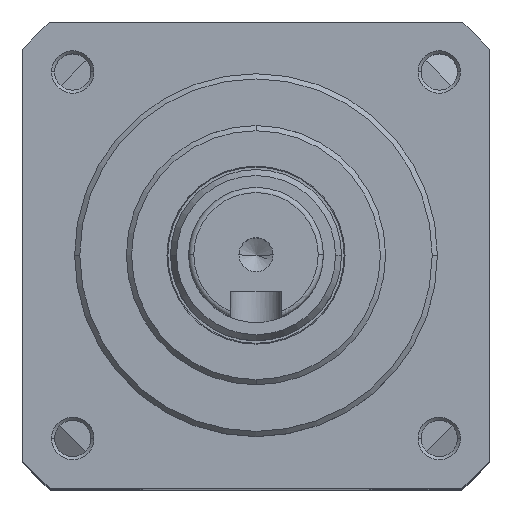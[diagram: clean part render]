
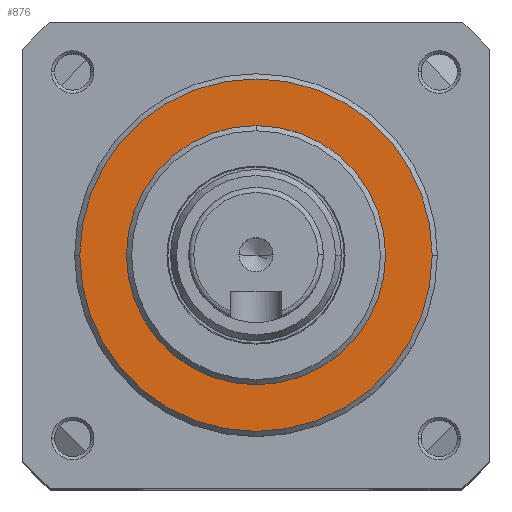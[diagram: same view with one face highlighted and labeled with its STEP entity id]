
A CAD part, top view. The second image highlights one B-rep face of the part: STEP entity #876.
In plain terms, the highlighted planar face has unit normal (0, 0, 1).
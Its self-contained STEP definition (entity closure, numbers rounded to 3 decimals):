
#373 = CARTESIAN_POINT ( 'NONE',  ( 0., 0., 37.75 ) ) ;
#711 = CARTESIAN_POINT ( 'NONE',  ( 12.5, 0., 37.75 ) ) ;
#723 = CARTESIAN_POINT ( 'NONE',  ( 0., 0., 37.75 ) ) ;
#876 = ADVANCED_FACE ( 'NONE', ( #1572, #14190 ), #1668, .T. ) ;
#1480 = DIRECTION ( 'NONE',  ( 1., 0., 0. ) ) ;
#1572 = FACE_OUTER_BOUND ( 'NONE', #15789, .T. ) ;
#1668 = PLANE ( 'NONE',  #3746 ) ;
#1928 = DIRECTION ( 'NONE',  ( 1., 0., 0. ) ) ;
#2104 = EDGE_CURVE ( 'NONE', #10865, #12562, #7927, .T. ) ;
#2136 = ORIENTED_EDGE ( 'NONE', *, *, #2104, .T. ) ;
#3011 = EDGE_CURVE ( 'NONE', #12493, #3862, #12398, .T. ) ;
#3746 = AXIS2_PLACEMENT_3D ( 'NONE', #10341, #4294, #6670 ) ;
#3862 = VERTEX_POINT ( 'NONE', #5953 ) ;
#4046 = AXIS2_PLACEMENT_3D ( 'NONE', #6275, #14783, #12495 ) ;
#4294 = DIRECTION ( 'NONE',  ( 0., 0., 1. ) ) ;
#4664 = ORIENTED_EDGE ( 'NONE', *, *, #12050, .T. ) ;
#5569 = CIRCLE ( 'NONE', #7670, 17. ) ;
#5953 = CARTESIAN_POINT ( 'NONE',  ( -12.5, 0., 37.75 ) ) ;
#6275 = CARTESIAN_POINT ( 'NONE',  ( 0., 0., 37.75 ) ) ;
#6670 = DIRECTION ( 'NONE',  ( 1., 0., 0. ) ) ;
#7601 = DIRECTION ( 'NONE',  ( 0., 0., 1. ) ) ;
#7670 = AXIS2_PLACEMENT_3D ( 'NONE', #723, #9300, #1928 ) ;
#7828 = AXIS2_PLACEMENT_3D ( 'NONE', #373, #7601, #1480 ) ;
#7927 = CIRCLE ( 'NONE', #10237, 17. ) ;
#8440 = CARTESIAN_POINT ( 'NONE',  ( -17., 0., 37.75 ) ) ;
#8793 = EDGE_LOOP ( 'NONE', ( #11922, #14613 ) ) ;
#9300 = DIRECTION ( 'NONE',  ( 0., 0., 1. ) ) ;
#10237 = AXIS2_PLACEMENT_3D ( 'NONE', #12508, #11444, #11333 ) ;
#10341 = CARTESIAN_POINT ( 'NONE',  ( 0., 0., 37.75 ) ) ;
#10865 = VERTEX_POINT ( 'NONE', #15189 ) ;
#11333 = DIRECTION ( 'NONE',  ( 1., 0., 0. ) ) ;
#11444 = DIRECTION ( 'NONE',  ( 0., 0., 1. ) ) ;
#11922 = ORIENTED_EDGE ( 'NONE', *, *, #3011, .F. ) ;
#12050 = EDGE_CURVE ( 'NONE', #12562, #10865, #5569, .T. ) ;
#12237 = EDGE_CURVE ( 'NONE', #3862, #12493, #15630, .T. ) ;
#12398 = CIRCLE ( 'NONE', #7828, 12.5 ) ;
#12493 = VERTEX_POINT ( 'NONE', #711 ) ;
#12495 = DIRECTION ( 'NONE',  ( 1., 0., 0. ) ) ;
#12508 = CARTESIAN_POINT ( 'NONE',  ( 0., 0., 37.75 ) ) ;
#12562 = VERTEX_POINT ( 'NONE', #8440 ) ;
#14190 = FACE_BOUND ( 'NONE', #8793, .T. ) ;
#14613 = ORIENTED_EDGE ( 'NONE', *, *, #12237, .F. ) ;
#14783 = DIRECTION ( 'NONE',  ( 0., 0., 1. ) ) ;
#15189 = CARTESIAN_POINT ( 'NONE',  ( 17., 0., 37.75 ) ) ;
#15630 = CIRCLE ( 'NONE', #4046, 12.5 ) ;
#15789 = EDGE_LOOP ( 'NONE', ( #4664, #2136 ) ) ;
